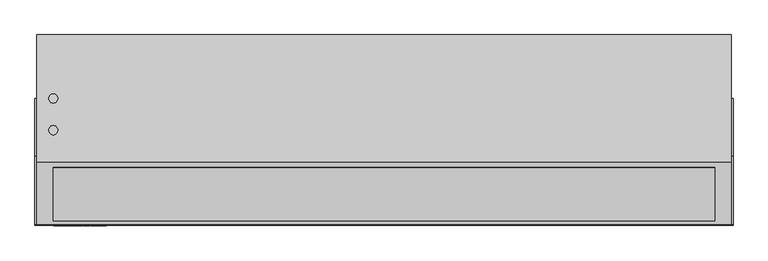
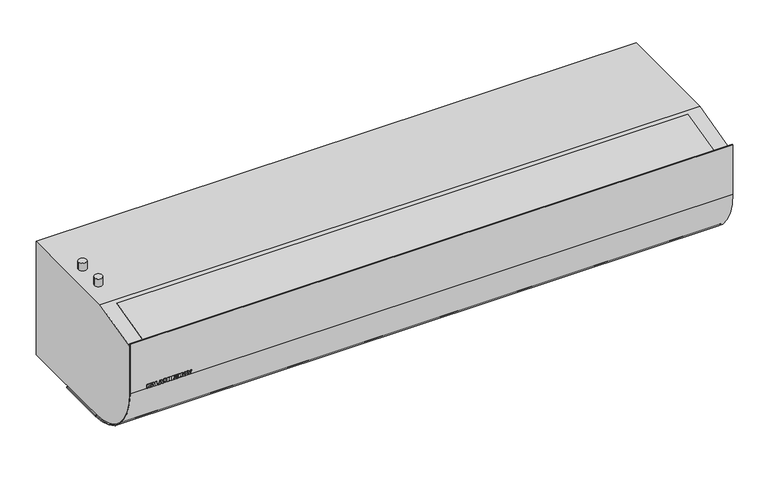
"""IFC4 building model written with IfcOpenShell, lengths in millimetres: proxy geometry, ADSK_Завеса_Водяная : KVC-D15W33-11."""

from ifc_helpers import new_model, si_unit, point, frame, frame_2d, origin, place, context, project, spatial, polyline, circle_curve, trimmed, segment, composite_curve, outline, extrude, source, transform, mapped, element, save
from ifc_brep_helpers import plane_surface, cylinder_surface, advanced_brep


def mechanical_equipment_3402af0e(model_context):
    return source(origin(), model_context, "Body", "SolidModel", [
        extrude(outline(polyline([(162.0, -719.0196078), (152.0, -719.0196078), (152.0, -715.8823529), (153.7647059, -715.8823529), (155.7745098, -714.1115196), (152.0, -712.2794118), (152.0, -708.4313725), (158.2775735, -711.9056373), (162.0, -708.627451), (162.0, -712.8982843), (158.2224265, -715.8823529), (162.0, -715.8823529), (162.0, -719.0196078)])), frame((0.0, -417.0, 0.0), z_axis=(0.0, 1.0, 0.0), x_axis=(0.0, 0.0, 1.0)), (0.0, 0.0, 1.0), 1.0),
        extrude(outline(polyline([(153.5686275, -701.4338235), (152.0, -700.9803922), (152.0, -697.6470588), (162.0, -701.0202206), (162.0, -705.0582108), (152.0, -708.4313725), (152.0, -705.0980392), (153.5686275, -704.6660539), (153.5686275, -701.4338235)]), holes=[polyline([(155.9215686, -702.0281863), (155.9215686, -704.0165441), (159.4540441, -703.0392157), (155.9215686, -702.0281863)])]), frame((0.0, -417.0, 0.0), z_axis=(0.0, 1.0, 0.0), x_axis=(0.0, 0.0, 1.0)), (0.0, 0.0, 1.0), 1.0),
        extrude(outline(polyline([(162.0, -696.6666667), (152.0, -696.6666667), (152.0, -688.8235294), (154.3529412, -688.8235294), (154.3529412, -693.5294118), (162.0, -693.5294118), (162.0, -696.6666667)])), frame((0.0, -417.0, 0.0), z_axis=(0.0, 1.0, 0.0), x_axis=(0.0, 0.0, 1.0)), (0.0, 0.0, 1.0), 1.0),
        extrude(outline(polyline([(153.5686275, -681.4338235), (152.0, -680.9803922), (152.0, -677.6470588), (162.0, -681.0202206), (162.0, -685.0582108), (152.0, -688.4313725), (152.0, -685.0980392), (153.5686275, -684.6660539), (153.5686275, -681.4338235)]), holes=[polyline([(155.9215686, -682.0281863), (155.9215686, -684.0165441), (159.4540441, -683.0392157), (155.9215686, -682.0281863)])]), frame((0.0, -417.0, 0.0), z_axis=(0.0, 1.0, 0.0), x_axis=(0.0, 0.0, 1.0)), (0.0, 0.0, 1.0), 1.0),
        extrude(outline(polyline([(155.3394608, -677.254902), (152.8026961, -676.1488971), (151.8039216, -672.6378676), (152.2297794, -670.2420343), (153.4813113, -668.7637868), (155.28125, -668.2352941), (156.7870711, -668.6305147), (157.9129902, -669.8958333), (158.8106618, -672.7757353), (160.4313725, -672.9074755), (160.1050858, -672.1338848), (159.0588235, -671.7647059), (159.2395833, -668.627451), (161.4883578, -669.8054534), (162.1960784, -672.6807598), (161.8039216, -675.1011029), (160.7285539, -676.4231005), (159.276348, -676.8627451), (157.3492647, -675.9957108), (156.1237745, -673.1219363), (154.8186275, -671.372549), (154.0818015, -671.6865809), (153.7647059, -672.5796569), (154.3958333, -673.7775735), (155.5294118, -674.1176471), (155.3394608, -677.254902)])), frame((0.0, -417.0, 0.0), z_axis=(0.0, 1.0, 0.0), x_axis=(0.0, 0.0, 1.0)), (0.0, 0.0, 1.0), 1.0),
        extrude(outline(polyline([(162.0, -666.6666667), (152.0, -666.6666667), (152.0, -663.5294118), (156.1176471, -663.5294118), (156.1176471, -660.1960784), (152.0, -660.1960784), (152.0, -657.0588235), (162.0, -657.0588235), (162.0, -660.1960784), (158.4705882, -660.1960784), (158.4705882, -663.5294118), (162.0, -663.5294118), (162.0, -666.6666667)])), frame((0.0, -417.0, 0.0), z_axis=(0.0, 1.0, 0.0), x_axis=(0.0, 0.0, 1.0)), (0.0, 0.0, 1.0), 1.0),
        extrude(outline(polyline([(162.0, -655.0980392), (152.0, -655.0980392), (152.0, -652.1568627), (157.4901961, -652.1568627), (152.0, -648.4313725), (152.0, -645.4901961), (162.0, -645.4901961), (162.0, -648.4313725), (156.4730392, -648.4313725), (162.0, -652.1783088), (162.0, -655.0980392)])), frame((0.0, -417.0, 0.0), z_axis=(0.0, 1.0, 0.0), x_axis=(0.0, 0.0, 1.0)), (0.0, 0.0, 1.0), 1.0),
        extrude(outline(polyline([(-640.1960784, -417.0), (-643.3333333, -417.0), (-643.3333333, -416.0), (-640.1960784, -416.0), (-640.1960784, -417.0)])), frame((0.0, 0.0, 152.0), z_axis=(0.0, 0.0, 1.0), x_axis=(1.0, 0.0, 0.0)), (0.0, 0.0, 1.0), 10.0),
        extrude(outline(polyline([(162.0, -638.0392157), (152.0, -638.0392157), (152.0, -634.9019608), (153.7647059, -634.9019608), (155.7745098, -633.1311275), (152.0, -631.2990196), (152.0, -627.4509804), (158.2775735, -630.9252451), (162.0, -627.6470588), (162.0, -631.9178922), (158.2224265, -634.9019608), (162.0, -634.9019608), (162.0, -638.0392157)])), frame((0.0, -417.0, 0.0), z_axis=(0.0, 1.0, 0.0), x_axis=(0.0, 0.0, 1.0)), (0.0, 0.0, 1.0), 1.0),
        extrude(outline(polyline([(156.9938725, -626.8627451), (154.0603554, -626.171875), (152.346201, -624.3688725), (151.8039216, -621.5594363), (152.4304534, -618.7729779), (154.1859681, -617.0618873), (157.0765931, -616.4705882), (160.8495711, -617.8247549), (162.1960784, -621.685049), (160.8250613, -625.4947917), (156.9938725, -626.8627451)]), holes=[polyline([(156.9938725, -623.7254902), (159.1813725, -623.1678922), (159.8431373, -621.6911765), (159.1920956, -620.1685049), (157.1286765, -619.6078431), (154.8048407, -620.145527), (154.1568627, -621.6636029), (154.8186275, -623.1709559), (156.9938725, -623.7254902)])]), frame((0.0, -417.0, 0.0), z_axis=(0.0, 1.0, 0.0), x_axis=(0.0, 0.0, 1.0)), (0.0, 0.0, 1.0), 1.0),
        extrude(outline(polyline([(162.0, -615.6862745), (152.0, -611.9699755), (152.0, -608.6397059), (162.0, -604.9019608), (162.0, -608.2352941), (154.8033088, -610.2941176), (162.0, -612.3560049), (162.0, -615.6862745)])), frame((0.0, -417.0, 0.0), z_axis=(0.0, 1.0, 0.0), x_axis=(0.0, 0.0, 1.0)), (0.0, 0.0, 1.0), 1.0),
        extrude(outline(polyline([(-26.4444444, 10.0), (-26.4444444, 0.0), (-48.8888889, 10.0), (-48.8888889, 0.0), (-71.3333333, 10.0), (-71.3333333, 0.0), (-93.7777778, 10.0), (-93.7777778, 0.0), (-116.2222222, 10.0), (-116.2222222, 0.0), (-138.5833165, 10.5360909), (-4.0, 10.5360909), (-4.0, 0.0), (-26.4444444, 10.0)])), frame((-720.0, 0.0, 0.0), z_axis=(1.0, 0.0, 0.0), x_axis=(0.0, 1.0, 0.0)), (0.0, 0.0, 1.0), 1440.0),
        advanced_brep(
        [(756.0, -277.3333333, 304.0), (756.0, -414.0, 269.0), (756.0, -414.0, 152.0), (756.0, -264.0, 2.0), (756.0, 0.0, 2.0), (756.0, 0.0, 304.0), (-756.0, -277.3333333, 304.0), (-756.0, 0.0, 304.0), (-756.0, 0.0, 2.0), (-756.0, -264.0, 2.0), (-756.0, -414.0, 152.0), (-756.0, -414.0, 269.0), (-710.0, -208.0, 304.0), (-730.0, -208.0, 304.0), (-710.0, -138.6666667, 304.0), (-730.0, -138.6666667, 304.0), (720.0, -4.0, 2.0), (-720.0, -4.0, 2.0), (-720.0, -138.6666667, 2.0), (720.0, -138.6666667, 2.0), (720.0, -4.0, 10.0), (720.0, -138.6666667, 10.0), (-720.0, -138.6666667, 10.0), (-720.0, -4.0, 10.0), (-730.0, -208.0, 324.0), (-710.0, -208.0, 324.0), (-730.0, -138.6666667, 324.0), (-710.0, -138.6666667, 324.0)],
        [
            (0, 1),
            (1, 2),
            (2, 3, circle_curve(frame((756.0, -264.0, 152.0), z_axis=(1.0, 0.0, 0.0), x_axis=(0.0, 1.0, 0.0)), 150.0)),
            (3, 4),
            (4, 5),
            (5, 0),
            (6, 7),
            (7, 8),
            (8, 9),
            (9, 10, circle_curve(frame((-756.0, -264.0, 152.0), z_axis=(-1.0, 0.0, 0.0), x_axis=(0.0, 1.0, 0.0)), 150.0)),
            (10, 11),
            (11, 6),
            (1, 11),
            (10, 2),
            (4, 8),
            (7, 5),
            (6, 0),
            (12, 13, circle_curve(frame((-720.0, -208.0, 304.0), z_axis=(0.0, 0.0, -1.0), x_axis=(1.0, 0.0, 0.0)), 10.0)),
            (13, 12, circle_curve(frame((-720.0, -208.0, 304.0), z_axis=(0.0, 0.0, -1.0), x_axis=(1.0, 0.0, 0.0)), 10.0)),
            (14, 15, circle_curve(frame((-720.0, -138.6666667, 304.0), z_axis=(0.0, 0.0, -1.0), x_axis=(1.0, 0.0, 0.0)), 10.0)),
            (15, 14, circle_curve(frame((-720.0, -138.6666667, 304.0), z_axis=(0.0, 0.0, -1.0), x_axis=(1.0, 0.0, 0.0)), 10.0)),
            (9, 3),
            (16, 17),
            (17, 18),
            (18, 19),
            (19, 16),
            (20, 21),
            (21, 22),
            (22, 23),
            (23, 20),
            (23, 17),
            (16, 20),
            (22, 18),
            (21, 19),
            (24, 25, circle_curve(frame((-720.0, -208.0, 324.0), z_axis=(0.0, 0.0, 1.0), x_axis=(1.0, 0.0, 0.0)), 10.0)),
            (25, 24, circle_curve(frame((-720.0, -208.0, 324.0), z_axis=(0.0, 0.0, 1.0), x_axis=(1.0, 0.0, 0.0)), 10.0)),
            (26, 27, circle_curve(frame((-720.0, -138.6666667, 324.0), z_axis=(0.0, 0.0, 1.0), x_axis=(1.0, 0.0, 0.0)), 10.0)),
            (27, 26, circle_curve(frame((-720.0, -138.6666667, 324.0), z_axis=(0.0, 0.0, 1.0), x_axis=(1.0, 0.0, 0.0)), 10.0)),
            (24, 13),
            (12, 25),
            (26, 15),
            (14, 27),
        ],
        [
            plane_surface(frame((756.0, -277.3333333, 304.0), z_axis=(1.0, 0.0, 0.0), x_axis=(0.0, -0.9687367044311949, -0.24809110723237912))),
            plane_surface(frame((-756.0, -277.3333333, 304.0), z_axis=(-1.0, 0.0, 0.0), x_axis=(0.0, 0.9687367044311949, 0.24809110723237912))),
            plane_surface(frame((756.0, -414.0, 269.0), z_axis=(0.0, -1.0, 0.0), x_axis=(-1.0, 0.0, 0.0))),
            plane_surface(frame((756.0, 0.0, 2.0), z_axis=(0.0, 1.0, 0.0), x_axis=(-1.0, 0.0, 0.0))),
            plane_surface(frame((756.0, 0.0, 304.0), z_axis=(0.0, 0.0, 1.0), x_axis=(-1.0, 0.0, 0.0))),
            cylinder_surface(frame((-756.0, -264.0, 152.0), z_axis=(1.0, 0.0, 0.0), x_axis=(0.0, 1.0, 0.0)), 150.0),
            plane_surface(frame((756.0, -264.0, 2.0), z_axis=(0.0, 0.0, -1.0), x_axis=(-1.0, 0.0, 0.0))),
            plane_surface(frame((756.0, -277.3333333, 304.0), z_axis=(0.0, -0.24809110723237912, 0.9687367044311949), x_axis=(-1.0, 0.0, 0.0))),
            plane_surface(frame((-720.0, -4.0, 10.0), z_axis=(0.0, 0.0, -1.0), x_axis=(-1.0, 0.0, 0.0))),
            plane_surface(frame((720.0, -4.0, 10.0), z_axis=(0.0, -1.0, 0.0), x_axis=(0.0, 0.0, -1.0))),
            plane_surface(frame((-720.0, -4.0, 10.0), z_axis=(1.0, 0.0, 0.0), x_axis=(0.0, 0.0, -1.0))),
            plane_surface(frame((-720.0, -138.6666667, 10.0), z_axis=(0.0, 1.0, 0.0), x_axis=(0.0, 0.0, -1.0))),
            plane_surface(frame((720.0, -138.6666667, 10.0), z_axis=(-1.0, 0.0, 0.0), x_axis=(0.0, 0.0, -1.0))),
            plane_surface(frame((-710.0, -208.0, 324.0), z_axis=(0.0, 0.0, 1.0), x_axis=(0.0, 1.0, 0.0))),
            cylinder_surface(frame((-720.0, -208.0, 304.0), z_axis=(0.0, 0.0, 1.0), x_axis=(1.0, 0.0, 0.0)), 10.0),
            cylinder_surface(frame((-720.0, -138.6666667, 0.0), z_axis=(0.0, 0.0, 1.0), x_axis=(1.0, 0.0, 0.0)), 10.0),
        ],
        [
            (0, [[1, 2, 3, 4, 5, 6]]),
            (1, [[7, 8, 9, 10, 11, 12]]),
            (2, [[-2, 13, -11, 14]]),
            (3, [[-5, 15, -8, 16]]),
            (4, [[-6, -16, -7, 17], [18, 19], [20, 21]]),
            (5, [[-3, -14, -10, 22]]),
            (6, [[-4, -22, -9, -15], [23, 24, 25, 26]]),
            (7, [[-1, -17, -12, -13]]),
            (8, [[27, 28, 29, 30]]),
            (9, [[-30, 31, -23, 32]]),
            (10, [[-29, 33, -24, -31]]),
            (11, [[-28, 34, -25, -33]]),
            (12, [[-27, -32, -26, -34]]),
            (13, [[35, 36]]),
            (13, [[37, 38]]),
            (14, [[-35, 39, -18, 40]]),
            (14, [[-36, -40, -19, -39]]),
            (15, [[-37, 41, -20, 42]]),
            (15, [[-38, -42, -21, -41]]),
        ],
    ),
        extrude(outline(polyline([(0.0, -120.8057216), (0.0, 0.0), (1440.0, 0.0), (1440.0, -120.8057216), (0.0, -120.8057216)])), frame((720.0, -405.390912, 270.2995374), z_axis=(0.0, -0.24809110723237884, 0.9687367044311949), x_axis=(-1.0, 0.0, 0.0)), (0.0, 0.0, 1.0), 1.7538572),
        extrude(outline(composite_curve([segment(polyline([(-416.0, 284.0), (-414.0, 284.0), (-414.0, 152.0)]), True, "CONTINUOUS"), segment(trimmed(circle_curve(frame_2d((-264.0, 152.0)), 150.0), [point((-414.0, 152.0))], [point((-264.0, 2.0))], True, "CARTESIAN"), True, "CONTINUOUS"), segment(polyline([(-264.0, 2.0), (-138.6666667, 2.0), (-138.6666667, 0.0), (-264.0, 0.0)]), True, "CONTINUOUS"), segment(trimmed(circle_curve(frame_2d((-264.0, 152.0)), 152.0), [point((-264.0, 0.0))], [point((-416.0, 152.0))], False, "CARTESIAN"), True, "CONTINUOUS"), segment(polyline([(-416.0, 152.0), (-416.0, 284.0)]), True, "CONTINUOUS")], self_intersect=False)), frame((-760.0, 0.0, 0.0), z_axis=(1.0, 0.0, 0.0), x_axis=(0.0, 1.0, 0.0)), (0.0, 0.0, 1.0), 1520.0),
    ])


if __name__ == "__main__":
    model = new_model("IFC4")
    model_context = context("Model", 3, world=origin())
    ifc_project = project(units=[si_unit("LENGTHUNIT", "METRE", prefix="MILLI")], contexts=[model_context])
    site = spatial("IfcSite", under=ifc_project)
    building = spatial("IfcBuilding", under=site)
    placement = place(None, origin())
    mechanical_equipment_shape = mechanical_equipment_3402af0e(model_context)
    element("IfcBuildingElementProxy", 1, Name="ADSK_Завеса_Водяная : KVC-D15W33-11", ObjectType="ADSK_Завеса_Водяная : KVC-D15W33-11", at=placement, inside=building, context=model_context, shape_type="MappedRepresentation", body=[
        mapped(mechanical_equipment_shape, transform((0.0, 0.0, 0.0), x_axis=(1.0, 0.0, 0.0), y_axis=(0.0, 1.0, 0.0), z_axis=(0.0, 0.0, 1.0))),
    ])
    save(model, "model.ifc")
